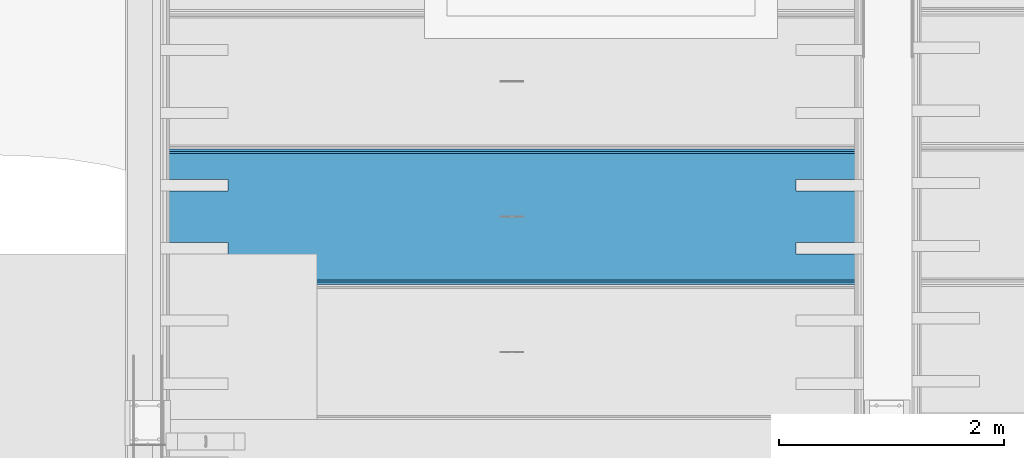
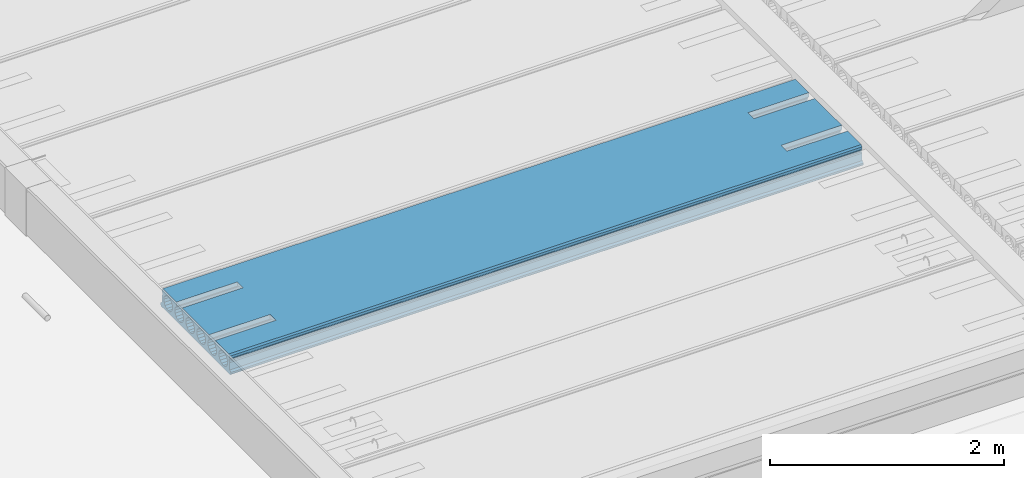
# One storey, part 75 of 230: 1 beam.
"""IFC4X3_ADD2 building model written with IfcOpenShell, lengths in millimetres."""

import ifcopenshell
import ifcopenshell.guid

model = None  # the IFC model being written
_history = None  # IfcOwnerHistory: only IFC2X3 demands one
_inside = {}  # id of a spatial element -> (the spatial element, [elements in it])
_under = {}  # id of a project, library or spatial element -> (it, [spatial elements below it])
_declared = {}  # id of a project -> (the project, [libraries it declares])
_typed = {}  # id of a type object -> (the type object, [elements of that type])
_made_of = {}  # id of a material, layer set ... -> (it, [elements and type objects made of it])


def new_model(schema):
    """Start an empty IFC model of exactly this schema.

    Asked for "IFC4X3", IfcOpenShell would pick the latest addendum, in which some entities
    have other attributes; the version numbers below select the first issue.
    IFC2X3 requires an IfcOwnerHistory on every rooted entity: one is made here for all.
    """
    global model, _history
    if schema == "IFC4X3":
        model = ifcopenshell.file(schema_version=(4, 3, 0, 0))
    else:
        model = ifcopenshell.file(schema=schema)
    _inside.clear()
    _under.clear()
    _declared.clear()
    _typed.clear()
    _made_of.clear()
    _history = None
    if model.schema == "IFC2X3":
        org = make("IfcOrganization", Name="unknown")
        user = make(
            "IfcPersonAndOrganization",
            ThePerson=make("IfcPerson", FamilyName="unknown"),
            TheOrganization=org,
        )
        app = make(
            "IfcApplication",
            ApplicationDeveloper=org,
            Version="unknown",
            ApplicationFullName="unknown",
            ApplicationIdentifier="unknown",
        )
        _history = make(
            "IfcOwnerHistory",
            OwningUser=user,
            OwningApplication=app,
            ChangeAction="ADDED",
            CreationDate=0,
        )
    return model


def make(cls, **values):
    """One entity of the class cls with the attributes given. An attribute that is None is left unset."""
    return model.create_entity(
        cls, **{name: value for name, value in values.items() if value is not None}
    )


def rooted(cls, **values):
    """An entity with a GlobalId (a new one), such as an element, a storey or a relation."""
    return make(cls, GlobalId=ifcopenshell.guid.new(), OwnerHistory=_history, **values)


def si_unit(unit_type, name, prefix=None):
    """IfcSIUnit, for example si_unit("LENGTHUNIT", "METRE", prefix="MILLI")."""
    return make("IfcSIUnit", UnitType=unit_type, Prefix=prefix, Name=name)


def assignment(units):
    """IfcUnitAssignment: the units of a project."""
    return None if units is None else make("IfcUnitAssignment", Units=units)


def point(xyz):
    """IfcCartesianPoint."""
    return None if xyz is None else make("IfcCartesianPoint", Coordinates=xyz)


def direction(xyz):
    """IfcDirection."""
    return None if xyz is None else make("IfcDirection", DirectionRatios=xyz)


def frame(location, z_axis=None, x_axis=None):
    """IfcAxis2Placement3D, a coordinate frame: its origin and axes. An axis left out is left unset."""
    return make(
        "IfcAxis2Placement3D",
        Location=point(location),
        Axis=direction(z_axis),
        RefDirection=direction(x_axis),
    )


def origin_with_axes():
    """The frame at (0, 0, 0) with the z axis (0, 0, 1) and the x axis (1, 0, 0) written out."""
    return frame((0.0, 0.0, 0.0), z_axis=(0.0, 0.0, 1.0), x_axis=(1.0, 0.0, 0.0))


def place(relative_to, where):
    """IfcLocalPlacement: puts the frame where relative to a parent placement (None: the world)."""
    return make(
        "IfcLocalPlacement", PlacementRelTo=relative_to, RelativePlacement=where
    )


def context(
    kind, dimensions, precision=None, world=None, true_north=None, identifier=None
):
    """IfcGeometricRepresentationContext, for example the 3D "Model" context."""
    return make(
        "IfcGeometricRepresentationContext",
        ContextIdentifier=identifier,
        ContextType=kind,
        CoordinateSpaceDimension=dimensions,
        Precision=precision,
        WorldCoordinateSystem=world,
        TrueNorth=true_north,
    )


def subcontext(parent, identifier, kind, view, scale=None):
    """IfcGeometricRepresentationSubContext, for example "Body" below "Model"."""
    return make(
        "IfcGeometricRepresentationSubContext",
        ContextIdentifier=identifier,
        ContextType=kind,
        ParentContext=parent,
        TargetScale=scale,
        TargetView=view,
    )


def project(units=None, contexts=None):
    """IfcProject with its units and contexts."""
    return rooted(
        "IfcProject",
        Name="project",
        RepresentationContexts=contexts,
        UnitsInContext=assignment(units),
    )


def spatial(cls, under=None, at=None, **own):
    """A site, building, storey or space (cls), placed at a placement, below another one or the project."""
    s = rooted(cls, ObjectPlacement=at, **own)
    if under is not None:
        _under.setdefault(under.id(), (under, []))[1].append(s)
    return s


def point_list(points):
    """IfcCartesianPointList2D or 3D."""
    cls = (
        "IfcCartesianPointList2D" if len(points[0]) == 2 else "IfcCartesianPointList3D"
    )
    return make(cls, CoordList=points)


def polygons(points, faces, closed=None, point_numbers=None):
    """IfcPolygonalFaceSet: a face is its outer loop, then its inner loops; points numbered from 1."""
    made = []
    for loops in faces:
        if len(loops) == 1:
            made.append(make("IfcIndexedPolygonalFace", CoordIndex=loops[0]))
        else:
            made.append(
                make(
                    "IfcIndexedPolygonalFaceWithVoids",
                    CoordIndex=loops[0],
                    InnerCoordIndices=loops[1:],
                )
            )
    return make(
        "IfcPolygonalFaceSet",
        Coordinates=point_list(points),
        Closed=closed,
        Faces=made,
        PnIndex=point_numbers,
    )


def shape(context_of_items, identifier, shape_type, items):
    """IfcShapeRepresentation: the items that make up one representation, for example the "Body"."""
    return make(
        "IfcShapeRepresentation",
        ContextOfItems=context_of_items,
        RepresentationIdentifier=identifier,
        RepresentationType=shape_type,
        Items=items,
    )


def made_of(thing, what):
    """Note that an element or type object is made of a material, layer set ...; save() writes the relation."""
    if what is not None:
        _made_of.setdefault(what.id(), (what, []))[1].append(thing)
    return thing


def element(
    cls,
    number,
    at=None,
    inside=None,
    cuts=None,
    type_object=None,
    material=None,
    context=None,
    identifier="Body",
    shape_type=None,
    held_by="IfcProductDefinitionShape",
    body=None,
    shapes=None,
    **own,
):
    """One element of the class cls, such as IfcWall. Its Tag is "e" and its number.

    at: its placement. inside: the storey or other place that contains it. cuts: it is an
    opening in that element (IfcRelVoidsElement). A single representation is given by context,
    identifier, shape_type and body (its items); several are given by shapes. held_by: the class
    of the entity that holds the representations. save() writes the other relations.
    """
    e = rooted(cls, Tag="e%d" % number, ObjectPlacement=at, **own)
    if body is not None:
        shapes = [shape(context, identifier, shape_type, body)]
    if shapes is not None:
        e.Representation = make(held_by, Representations=shapes)
    if inside is not None:
        _inside.setdefault(inside.id(), (inside, []))[1].append(e)
    if cuts is not None:
        rooted(
            "IfcRelVoidsElement", RelatingBuildingElement=cuts, RelatedOpeningElement=e
        )
    if type_object is not None:
        _typed.setdefault(type_object.id(), (type_object, []))[1].append(e)
    return made_of(e, material)


def aggregate(whole, parts):
    """IfcRelAggregates: a whole, such as a stair, and the parts it consists of."""
    return rooted("IfcRelAggregates", RelatingObject=whole, RelatedObjects=parts)


def save(model, path):
    """Write the relations noted so far, then the file.

    IfcRelAggregates (storeys below a building ...), IfcRelContainedInSpatialStructure (elements
    in a storey), IfcRelDefinesByType, IfcRelAssociatesMaterial and IfcRelDeclares: one each for
    every whole, place, type object, material and project.
    """
    for whole, parts in _under.values():
        aggregate(whole, parts)
    for where, things in _inside.values():
        rooted(
            "IfcRelContainedInSpatialStructure",
            RelatedElements=things,
            RelatingStructure=where,
        )
    for kind, things in _typed.values():
        rooted("IfcRelDefinesByType", RelatedObjects=things, RelatingType=kind)
    for what, things in _made_of.values():
        rooted("IfcRelAssociatesMaterial", RelatedObjects=things, RelatingMaterial=what)
    for by, libraries in _declared.values():
        rooted("IfcRelDeclares", RelatingContext=by, RelatedDefinitions=libraries)
    model.write(path)


model = new_model("IFC4X3_ADD2")

# Units and contexts
model_context = context("Model", 3, precision=1e-05, world=origin_with_axes(), true_north=direction((0.0, 1.0)))
body_context = subcontext(model_context, "Body", "Model", "MODEL_VIEW")
ifc_project = project(units=[si_unit("LENGTHUNIT", "METRE", prefix="MILLI"), si_unit("AREAUNIT", "SQUARE_METRE"), si_unit("VOLUMEUNIT", "CUBIC_METRE"), si_unit("PLANEANGLEUNIT", "RADIAN"), si_unit("TIMEUNIT", "SECOND"), si_unit("MASSUNIT", "GRAM")], contexts=[model_context])

# Site, building, storey
site_placement = place(None, origin_with_axes())
site = spatial("IfcSite", under=ifc_project, at=site_placement, Name="Site", CompositionType="ELEMENT")
building_placement = place(site_placement, origin_with_axes())
building = spatial("IfcBuilding", under=site, at=building_placement, Name="IFC Building Story")
storey_placement = place(building_placement, origin_with_axes())
storey = spatial("IfcBuildingStorey", under=building, at=storey_placement, Name="ETAGE 00 (0)", Elevation=0.0)

# Beam
beam_placement = place(storey_placement, origin_with_axes())
element("IfcBeam", 1, at=beam_placement, inside=storey, Name="HOLLOWCORE SLAB", ObjectType="EB_SP200", context=body_context, shape_type="Tessellation", body=[
    polygons([(33515.6922247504, -9970.999771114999, 3999.9999909), (33515.6922247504, -11148.999771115, 3999.9999909), (33515.6922247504, -11159.999771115, 4012.9999909), (33515.6922247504, -11159.999771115, 4029.9999909), (33515.6922247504, -11139.999771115, 4044.9999909), (33515.6922247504, -11138.54975890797, 4119.9999909), (33515.6922247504, -11131.01714963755, 4128.676139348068), (33515.6922247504, -11128.15984110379, 4139.805000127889), (33515.6922247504, -11130.58113470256, 4151.036789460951), (33515.6922247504, -11137.76979064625, 4159.9999909), (33515.6922247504, -11137.28847495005, 4185.002769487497), (33515.6922247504, -11121.999771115, 4199.9999909), (33515.6922247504, -10889.999771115, 4199.9999909), (33515.6922247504, -10889.999771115, 4155.806158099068), (33515.6922247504, -10894.6792263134, 4152.679446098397), (33515.6922247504, -10910.82879628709, 4128.509906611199), (33515.6922247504, -10916.499771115, 4099.9999909), (33515.6922247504, -10910.82879628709, 4071.490075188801), (33515.6922247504, -10894.6792263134, 4047.320535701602), (33515.6922247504, -10870.5096868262, 4031.170965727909), (33515.6922247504, -10841.999771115, 4025.4999909), (33515.6922247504, -10813.4898554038, 4031.170965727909), (33515.6922247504, -10789.3203159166, 4047.320535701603), (33515.6922247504, -10773.17074594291, 4071.490075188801), (33515.6922247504, -10767.499771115, 4099.9999909), (33515.6922247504, -10773.17074594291, 4128.509906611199), (33515.6922247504, -10789.3203159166, 4152.679446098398), (33515.6922247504, -10789.999771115, 4153.133443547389), (33515.6922247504, -10789.999771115, 4199.9999909), (33515.6922247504, -10329.999771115, 4199.9999909), (33515.6922247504, -10329.999771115, 4153.133443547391), (33515.6922247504, -10330.6792263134, 4152.679446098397), (33515.6922247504, -10346.82879628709, 4128.509906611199), (33515.6922247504, -10352.499771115, 4099.9999909), (33515.6922247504, -10346.82879628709, 4071.490075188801), (33515.6922247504, -10330.6792263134, 4047.320535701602), (33515.6922247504, -10306.5096868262, 4031.170965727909), (33515.6922247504, -10277.999771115, 4025.4999909), (33515.6922247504, -10249.4898554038, 4031.170965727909), (33515.6922247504, -10225.3203159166, 4047.320535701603), (33515.6922247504, -10209.17074594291, 4071.490075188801), (33515.6922247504, -10203.499771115, 4099.9999909), (33515.6922247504, -10209.17074594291, 4128.509906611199), (33515.6922247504, -10225.3203159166, 4152.679446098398), (33515.6922247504, -10229.999771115, 4155.806158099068), (33515.6922247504, -10229.999771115, 4199.9999909), (33515.6922247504, -9997.999771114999, 4199.9999909), (33515.6922247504, -9982.71106727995, 4185.002769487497), (33515.6922247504, -9982.229751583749, 4159.9999909), (33515.6922247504, -9989.418407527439, 4151.036789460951), (33515.6922247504, -9991.83970112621, 4139.805000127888), (33515.6922247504, -9988.982392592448, 4128.676139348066), (33515.6922247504, -9981.449783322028, 4119.9999909), (33515.6922247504, -9979.999771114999, 4044.9999909), (33515.6922247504, -9959.999771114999, 4029.9999909), (33515.6922247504, -9959.999771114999, 4012.9999909), (33515.6922247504, -10037.3203159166, 4152.679446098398), (33515.6922247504, -10061.4898554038, 4168.829016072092), (33515.6922247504, -10089.999771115, 4174.4999909), (33515.6922247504, -10118.5096868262, 4168.829016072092), (33515.6922247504, -10142.6792263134, 4152.679446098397), (33515.6922247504, -10158.82879628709, 4128.509906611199), (33515.6922247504, -10164.499771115, 4099.9999909), (33515.6922247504, -10158.82879628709, 4071.490075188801), (33515.6922247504, -10142.6792263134, 4047.320535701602), (33515.6922247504, -10118.5096868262, 4031.170965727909), (33515.6922247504, -10089.999771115, 4025.4999909), (33515.6922247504, -10061.4898554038, 4031.170965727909), (33515.6922247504, -10037.3203159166, 4047.320535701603), (33515.6922247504, -10021.17074594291, 4071.490075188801), (33515.6922247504, -10015.499771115, 4099.9999909), (33515.6922247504, -10021.17074594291, 4128.509906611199), (33515.6922247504, -10413.3203159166, 4152.679446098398), (33515.6922247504, -10437.4898554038, 4168.829016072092), (33515.6922247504, -10465.999771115, 4174.4999909), (33515.6922247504, -10494.5096868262, 4168.829016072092), (33515.6922247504, -10518.6792263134, 4152.679446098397), (33515.6922247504, -10534.82879628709, 4128.509906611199), (33515.6922247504, -10540.499771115, 4099.9999909), (33515.6922247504, -10534.82879628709, 4071.490075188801), (33515.6922247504, -10518.6792263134, 4047.320535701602), (33515.6922247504, -10494.5096868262, 4031.170965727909), (33515.6922247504, -10465.999771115, 4025.4999909), (33515.6922247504, -10437.4898554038, 4031.170965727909), (33515.6922247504, -10413.3203159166, 4047.320535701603), (33515.6922247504, -10397.17074594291, 4071.490075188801), (33515.6922247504, -10391.499771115, 4099.9999909), (33515.6922247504, -10397.17074594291, 4128.509906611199), (33515.6922247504, -10601.3203159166, 4152.679446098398), (33515.6922247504, -10625.4898554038, 4168.829016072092), (33515.6922247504, -10653.999771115, 4174.4999909), (33515.6922247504, -10682.5096868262, 4168.829016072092), (33515.6922247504, -10706.6792263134, 4152.679446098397), (33515.6922247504, -10722.82879628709, 4128.509906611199), (33515.6922247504, -10728.499771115, 4099.9999909), (33515.6922247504, -10722.82879628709, 4071.490075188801), (33515.6922247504, -10706.6792263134, 4047.320535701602), (33515.6922247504, -10682.5096868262, 4031.170965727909), (33515.6922247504, -10653.999771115, 4025.4999909), (33515.6922247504, -10625.4898554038, 4031.170965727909), (33515.6922247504, -10601.3203159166, 4047.320535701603), (33515.6922247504, -10585.17074594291, 4071.490075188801), (33515.6922247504, -10579.499771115, 4099.9999909), (33515.6922247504, -10585.17074594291, 4128.509906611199), (33515.6922247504, -10977.3203159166, 4152.679446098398), (33515.6922247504, -11001.4898554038, 4168.829016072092), (33515.6922247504, -11029.999771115, 4174.4999909), (33515.6922247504, -11058.5096868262, 4168.829016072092), (33515.6922247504, -11082.6792263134, 4152.679446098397), (33515.6922247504, -11098.82879628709, 4128.509906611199), (33515.6922247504, -11104.499771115, 4099.9999909), (33515.6922247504, -11098.82879628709, 4071.490075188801), (33515.6922247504, -11082.6792263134, 4047.320535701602), (33515.6922247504, -11058.5096868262, 4031.170965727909), (33515.6922247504, -11029.999771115, 4025.4999909), (33515.6922247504, -11001.4898554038, 4031.170965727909), (33515.6922247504, -10977.3203159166, 4047.320535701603), (33515.6922247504, -10961.17074594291, 4071.490075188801), (33515.6922247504, -10955.499771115, 4099.9999909), (33515.6922247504, -10961.17074594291, 4128.509906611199), (39750.6922247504, -9970.999771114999, 3999.9999909), (39750.6922247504, -9959.999771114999, 4012.9999909), (39750.6922247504, -9959.999771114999, 4029.9999909), (39750.6922247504, -9979.999771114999, 4044.9999909), (39750.6922247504, -9981.449783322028, 4119.9999909), (39750.6922247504, -9988.982392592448, 4128.676139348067), (39750.6922247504, -9991.83970112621, 4139.805000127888), (39750.6922247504, -9989.418407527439, 4151.036789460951), (39750.6922247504, -9982.229751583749, 4159.9999909), (39750.6922247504, -9982.71106727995, 4185.002769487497), (39750.6922247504, -9997.999771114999, 4199.9999909), (39750.6922247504, -10229.999771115, 4199.9999909), (39750.6922247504, -10229.999771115, 4155.806158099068), (39750.6922247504, -10225.3203159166, 4152.679446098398), (39750.6922247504, -10209.17074594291, 4128.509906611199), (39750.6922247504, -10203.499771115, 4099.9999909), (39750.6922247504, -10209.17074594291, 4071.490075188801), (39750.6922247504, -10225.3203159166, 4047.320535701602), (39750.6922247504, -10249.4898554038, 4031.170965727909), (39750.6922247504, -10277.999771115, 4025.4999909), (39750.6922247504, -10306.5096868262, 4031.170965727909), (39750.6922247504, -10330.6792263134, 4047.320535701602), (39750.6922247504, -10346.82879628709, 4071.490075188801), (39750.6922247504, -10352.499771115, 4099.9999909), (39750.6922247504, -10346.82879628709, 4128.509906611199), (39750.6922247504, -10330.6792263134, 4152.679446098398), (39750.6922247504, -10329.999771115, 4153.133443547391), (39750.6922247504, -10329.999771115, 4199.9999909), (39750.6922247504, -10789.999771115, 4199.9999909), (39750.6922247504, -10789.999771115, 4153.133443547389), (39750.6922247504, -10789.3203159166, 4152.679446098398), (39750.6922247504, -10773.17074594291, 4128.509906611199), (39750.6922247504, -10767.499771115, 4099.9999909), (39750.6922247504, -10773.17074594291, 4071.490075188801), (39750.6922247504, -10789.3203159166, 4047.320535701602), (39750.6922247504, -10813.4898554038, 4031.170965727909), (39750.6922247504, -10841.999771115, 4025.4999909), (39750.6922247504, -10870.5096868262, 4031.170965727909), (39750.6922247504, -10894.6792263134, 4047.320535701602), (39750.6922247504, -10910.82879628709, 4071.490075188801), (39750.6922247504, -10916.499771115, 4099.9999909), (39750.6922247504, -10910.82879628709, 4128.509906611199), (39750.6922247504, -10894.6792263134, 4152.679446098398), (39750.6922247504, -10889.999771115, 4155.806158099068), (39750.6922247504, -10889.999771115, 4199.9999909), (39750.6922247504, -11121.999771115, 4199.9999909), (39750.6922247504, -11137.28847495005, 4185.002769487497), (39750.6922247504, -11137.76979064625, 4159.9999909), (39750.6922247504, -11130.58113470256, 4151.036789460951), (39750.6922247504, -11128.15984110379, 4139.805000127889), (39750.6922247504, -11131.01714963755, 4128.676139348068), (39750.6922247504, -11138.54975890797, 4119.9999909), (39750.6922247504, -11139.999771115, 4044.9999909), (39750.6922247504, -11159.999771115, 4029.9999909), (39750.6922247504, -11159.999771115, 4012.9999909), (39750.6922247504, -11148.999771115, 3999.9999909), (39750.6922247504, -10037.3203159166, 4152.679446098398), (39750.6922247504, -10021.17074594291, 4128.509906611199), (39750.6922247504, -10015.499771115, 4099.9999909), (39750.6922247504, -10021.17074594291, 4071.490075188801), (39750.6922247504, -10037.3203159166, 4047.320535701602), (39750.6922247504, -10061.4898554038, 4031.170965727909), (39750.6922247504, -10089.999771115, 4025.4999909), (39750.6922247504, -10118.5096868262, 4031.170965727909), (39750.6922247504, -10142.6792263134, 4047.320535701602), (39750.6922247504, -10158.82879628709, 4071.490075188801), (39750.6922247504, -10164.499771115, 4099.9999909), (39750.6922247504, -10158.82879628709, 4128.509906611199), (39750.6922247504, -10142.6792263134, 4152.679446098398), (39750.6922247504, -10118.5096868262, 4168.829016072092), (39750.6922247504, -10089.999771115, 4174.4999909), (39750.6922247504, -10061.4898554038, 4168.829016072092), (39750.6922247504, -10413.3203159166, 4152.679446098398), (39750.6922247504, -10397.17074594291, 4128.509906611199), (39750.6922247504, -10391.499771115, 4099.9999909), (39750.6922247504, -10397.17074594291, 4071.490075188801), (39750.6922247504, -10413.3203159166, 4047.320535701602), (39750.6922247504, -10437.4898554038, 4031.170965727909), (39750.6922247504, -10465.999771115, 4025.4999909), (39750.6922247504, -10494.5096868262, 4031.170965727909), (39750.6922247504, -10518.6792263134, 4047.320535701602), (39750.6922247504, -10534.82879628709, 4071.490075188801), (39750.6922247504, -10540.499771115, 4099.9999909), (39750.6922247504, -10534.82879628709, 4128.509906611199), (39750.6922247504, -10518.6792263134, 4152.679446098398), (39750.6922247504, -10494.5096868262, 4168.829016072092), (39750.6922247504, -10465.999771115, 4174.4999909), (39750.6922247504, -10437.4898554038, 4168.829016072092), (39750.6922247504, -10601.3203159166, 4152.679446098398), (39750.6922247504, -10585.17074594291, 4128.509906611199), (39750.6922247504, -10579.499771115, 4099.9999909), (39750.6922247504, -10585.17074594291, 4071.490075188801), (39750.6922247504, -10601.3203159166, 4047.320535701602), (39750.6922247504, -10625.4898554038, 4031.170965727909), (39750.6922247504, -10653.999771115, 4025.4999909), (39750.6922247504, -10682.5096868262, 4031.170965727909), (39750.6922247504, -10706.6792263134, 4047.320535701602), (39750.6922247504, -10722.82879628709, 4071.490075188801), (39750.6922247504, -10728.499771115, 4099.9999909), (39750.6922247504, -10722.82879628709, 4128.509906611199), (39750.6922247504, -10706.6792263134, 4152.679446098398), (39750.6922247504, -10682.5096868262, 4168.829016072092), (39750.6922247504, -10653.999771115, 4174.4999909), (39750.6922247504, -10625.4898554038, 4168.829016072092), (39750.6922247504, -10977.3203159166, 4152.679446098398), (39750.6922247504, -10961.17074594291, 4128.509906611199), (39750.6922247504, -10955.499771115, 4099.9999909), (39750.6922247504, -10961.17074594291, 4071.490075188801), (39750.6922247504, -10977.3203159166, 4047.320535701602), (39750.6922247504, -11001.4898554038, 4031.170965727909), (39750.6922247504, -11029.999771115, 4025.4999909), (39750.6922247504, -11058.5096868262, 4031.170965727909), (39750.6922247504, -11082.6792263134, 4047.320535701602), (39750.6922247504, -11098.82879628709, 4071.490075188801), (39750.6922247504, -11104.499771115, 4099.9999909), (39750.6922247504, -11098.82879628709, 4128.509906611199), (39750.6922247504, -11082.6792263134, 4152.679446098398), (39750.6922247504, -11058.5096868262, 4168.829016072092), (39750.6922247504, -11029.999771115, 4174.4999909), (39750.6922247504, -11001.4898554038, 4168.829016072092), (34115.6922247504, -10229.999771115, 4199.9999909), (34115.6922247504, -10329.999771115, 4199.9999909), (34115.6922247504, -10789.999771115, 4199.9999909), (34115.6922247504, -10889.999771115, 4199.9999909), (39150.69222475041, -10889.999771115, 4199.9999909), (39150.69222475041, -10789.999771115, 4199.9999909), (39150.69222475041, -10329.999771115, 4199.9999909), (39150.69222475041, -10229.999771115, 4199.9999909), (39150.69222475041, -10229.999771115, 4155.806158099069), (39150.69222475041, -10249.4898554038, 4168.829016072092), (34115.6922247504, -10249.4898554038, 4168.829016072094), (34115.6922247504, -10229.999771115, 4155.806158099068), (39150.69222475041, -10277.999771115, 4174.4999909), (34115.6922247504, -10277.999771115, 4174.4999909), (39150.69222475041, -10306.5096868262, 4168.829016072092), (34115.6922247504, -10306.5096868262, 4168.82901607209), (34115.6922247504, -10329.999771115, 4153.133443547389), (39150.69222475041, -10329.999771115, 4153.133443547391), (39150.69222475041, -10789.999771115, 4153.13344354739), (39150.69222475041, -10813.4898554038, 4168.829016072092), (34115.6922247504, -10813.4898554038, 4168.829016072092), (34115.6922247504, -10789.999771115, 4153.133443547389), (39150.69222475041, -10841.999771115, 4174.4999909), (34115.6922247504, -10841.999771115, 4174.4999909), (39150.69222475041, -10870.5096868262, 4168.829016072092), (34115.6922247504, -10870.5096868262, 4168.829016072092), (34115.6922247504, -10889.999771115, 4155.806158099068), (39150.69222475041, -10889.999771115, 4155.806158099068), (34115.6922247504, -10329.999771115, 4199.999996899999), (34115.6922247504, -10229.999771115, 4199.999996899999), (39150.69222475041, -10229.999771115, 4199.999996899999), (39150.69222475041, -10329.999771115, 4199.999996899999), (39150.69222475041, -10789.999771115, 4199.999996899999), (39150.69222475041, -10889.999771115, 4199.999996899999), (34115.6922247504, -10889.999771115, 4199.999996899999), (34115.6922247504, -10789.999771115, 4199.999996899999)], [[[27, 28, 29]], [[92, 93, 26]], [[92, 26, 27]], [[92, 27, 29]], [[29, 91, 92]], [[91, 29, 30]], [[30, 90, 91]], [[30, 89, 90]], [[94, 95, 25]], [[94, 25, 26]], [[26, 93, 94]], [[96, 97, 24]], [[24, 25, 95]], [[24, 95, 96]], [[97, 23, 24]], [[76, 77, 104]], [[76, 104, 89]], [[89, 75, 76]], [[75, 89, 30]], [[30, 74, 75]], [[30, 73, 74]], [[78, 79, 103]], [[78, 103, 104]], [[104, 77, 78]], [[80, 81, 102]], [[102, 103, 79]], [[102, 79, 80]], [[81, 101, 102]], [[88, 73, 30]], [[88, 30, 31]], [[33, 34, 87]], [[33, 87, 88]], [[88, 32, 33]], [[88, 31, 32]], [[35, 36, 86]], [[86, 87, 34]], [[86, 34, 35]], [[36, 85, 86]], [[44, 45, 46]], [[60, 61, 43]], [[60, 43, 44]], [[60, 44, 46]], [[46, 59, 60]], [[46, 47, 59]], [[47, 58, 59]], [[47, 57, 58]], [[62, 63, 42]], [[62, 42, 43]], [[43, 61, 62]], [[64, 65, 41]], [[41, 42, 63]], [[41, 63, 64]], [[50, 51, 72]], [[50, 72, 57]], [[57, 47, 48]], [[57, 48, 49]], [[57, 49, 50]], [[52, 53, 71]], [[52, 71, 72]], [[72, 51, 52]], [[53, 54, 70]], [[53, 70, 71]], [[54, 55, 56]], [[54, 56, 1]], [[1, 69, 70]], [[1, 70, 54]], [[1, 68, 69]], [[1, 67, 68]], [[1, 66, 67]], [[1, 40, 66]], [[40, 41, 65]], [[40, 65, 66]], [[1, 39, 40]], [[1, 38, 39]], [[1, 84, 38]], [[84, 37, 38]], [[84, 85, 36]], [[84, 36, 37]], [[1, 83, 84]], [[1, 100, 83]], [[100, 82, 83]], [[100, 101, 81]], [[100, 81, 82]], [[1, 99, 100]], [[1, 22, 99]], [[22, 98, 99]], [[22, 23, 97]], [[22, 97, 98]], [[1, 21, 22]], [[1, 2, 21]], [[2, 20, 21]], [[2, 19, 20]], [[9, 10, 11]], [[9, 11, 12]], [[109, 110, 8]], [[109, 8, 9]], [[9, 12, 108]], [[9, 108, 109]], [[12, 107, 108]], [[107, 12, 13]], [[13, 106, 107]], [[13, 105, 106]], [[110, 7, 8]], [[112, 113, 5]], [[5, 6, 111]], [[5, 111, 112]], [[6, 7, 110]], [[6, 110, 111]], [[116, 117, 18]], [[116, 18, 19]], [[19, 115, 116]], [[19, 2, 115]], [[2, 114, 115]], [[2, 5, 113]], [[2, 113, 114]], [[2, 3, 4]], [[2, 4, 5]], [[118, 119, 17]], [[118, 17, 18]], [[18, 117, 118]], [[120, 105, 16]], [[16, 17, 119]], [[16, 119, 120]], [[105, 13, 15]], [[105, 15, 16]], [[13, 14, 15]], [[173, 174, 175]], [[173, 175, 176]], [[128, 129, 130]], [[128, 130, 131]], [[128, 131, 177]], [[177, 178, 127]], [[177, 127, 128]], [[178, 126, 127]], [[180, 181, 124]], [[124, 125, 179]], [[124, 179, 180]], [[125, 126, 178]], [[125, 178, 179]], [[192, 177, 131]], [[131, 191, 192]], [[191, 131, 132]], [[132, 190, 191]], [[132, 189, 190]], [[132, 133, 188]], [[132, 188, 189]], [[135, 136, 187]], [[135, 187, 188]], [[188, 134, 135]], [[188, 133, 134]], [[137, 138, 186]], [[186, 187, 136]], [[186, 136, 137]], [[138, 139, 185]], [[138, 185, 186]], [[139, 184, 185]], [[146, 147, 148]], [[148, 193, 145]], [[148, 145, 146]], [[194, 195, 144]], [[194, 144, 145]], [[145, 193, 194]], [[196, 197, 143]], [[143, 144, 195]], [[143, 195, 196]], [[197, 142, 143]], [[208, 193, 148]], [[148, 207, 208]], [[148, 209, 207]], [[209, 206, 207]], [[209, 205, 206]], [[209, 204, 205]], [[210, 211, 203]], [[210, 203, 204]], [[204, 209, 210]], [[212, 213, 202]], [[202, 203, 211]], [[202, 211, 212]], [[213, 201, 202]], [[224, 209, 148]], [[148, 223, 224]], [[148, 149, 223]], [[149, 222, 223]], [[149, 221, 222]], [[149, 150, 220]], [[149, 220, 221]], [[152, 153, 219]], [[152, 219, 220]], [[220, 151, 152]], [[220, 150, 151]], [[154, 155, 218]], [[218, 219, 153]], [[218, 153, 154]], [[155, 217, 218]], [[163, 164, 165]], [[165, 225, 162]], [[165, 162, 163]], [[226, 227, 161]], [[226, 161, 162]], [[162, 225, 226]], [[228, 229, 160]], [[160, 161, 227]], [[160, 227, 228]], [[235, 236, 171]], [[235, 171, 172]], [[172, 173, 234]], [[172, 234, 235]], [[173, 176, 233]], [[173, 233, 234]], [[176, 232, 233]], [[176, 231, 232]], [[176, 230, 231]], [[176, 159, 230]], [[159, 160, 229]], [[159, 229, 230]], [[176, 158, 159]], [[176, 157, 158]], [[176, 216, 157]], [[216, 156, 157]], [[216, 217, 155]], [[216, 155, 156]], [[176, 215, 216]], [[176, 200, 215]], [[200, 214, 215]], [[200, 201, 213]], [[200, 213, 214]], [[176, 199, 200]], [[176, 141, 199]], [[141, 198, 199]], [[141, 142, 197]], [[141, 197, 198]], [[176, 140, 141]], [[176, 183, 140]], [[183, 184, 139]], [[183, 139, 140]], [[176, 121, 183]], [[121, 182, 183]], [[121, 124, 181]], [[121, 181, 182]], [[121, 122, 123]], [[121, 123, 124]], [[236, 170, 171]], [[240, 225, 165]], [[165, 239, 240]], [[165, 166, 239]], [[166, 238, 239]], [[166, 169, 237]], [[166, 237, 238]], [[169, 170, 236]], [[169, 236, 237]], [[166, 167, 168]], [[166, 168, 169]], [[2, 1, 121, 176]], [[3, 2, 176, 175]], [[4, 3, 175, 174]], [[5, 4, 174, 173]], [[6, 5, 173, 172]], [[7, 6, 172, 171]], [[8, 7, 171, 170]], [[9, 8, 170, 169]], [[10, 9, 169, 168]], [[11, 10, 168, 167]], [[12, 11, 167, 166]], [[242, 30, 29]], [[242, 29, 243]], [[244, 13, 12]], [[244, 12, 166]], [[166, 243, 244]], [[242, 243, 166]], [[166, 241, 242]], [[246, 149, 148]], [[246, 148, 247]], [[248, 132, 131]], [[248, 131, 47]], [[47, 247, 248]], [[246, 247, 47]], [[47, 245, 246]], [[47, 241, 166]], [[47, 166, 245]], [[166, 165, 245]], [[47, 46, 241]], [[48, 47, 131, 130]], [[49, 48, 130, 129]], [[50, 49, 129, 128]], [[51, 50, 128, 127]], [[52, 51, 127, 126]], [[53, 52, 126, 125]], [[54, 53, 125, 124]], [[55, 54, 124, 123]], [[56, 55, 123, 122]], [[1, 56, 122, 121]], [[58, 57, 177, 192]], [[59, 58, 192, 191]], [[60, 59, 191, 190]], [[61, 60, 190, 189]], [[62, 61, 189, 188]], [[63, 62, 188, 187]], [[64, 63, 187, 186]], [[65, 64, 186, 185]], [[66, 65, 185, 184]], [[67, 66, 184, 183]], [[68, 67, 183, 182]], [[69, 68, 182, 181]], [[70, 69, 181, 180]], [[71, 70, 180, 179]], [[72, 71, 179, 178]], [[57, 72, 178, 177]], [[252, 45, 44]], [[252, 44, 249]], [[249, 250, 251]], [[249, 251, 252]], [[44, 134, 249]], [[134, 133, 249]], [[251, 250, 253, 254]], [[254, 253, 255, 256]], [[258, 147, 146]], [[258, 146, 257]], [[257, 256, 255]], [[257, 255, 258]], [[146, 32, 257]], [[32, 31, 257]], [[33, 32, 146, 145]], [[34, 33, 145, 144]], [[35, 34, 144, 143]], [[36, 35, 143, 142]], [[37, 36, 142, 141]], [[38, 37, 141, 140]], [[39, 38, 140, 139]], [[40, 39, 139, 138]], [[41, 40, 138, 137]], [[42, 41, 137, 136]], [[43, 42, 136, 135]], [[44, 43, 135, 134]], [[74, 73, 193, 208]], [[75, 74, 208, 207]], [[76, 75, 207, 206]], [[77, 76, 206, 205]], [[78, 77, 205, 204]], [[79, 78, 204, 203]], [[80, 79, 203, 202]], [[81, 80, 202, 201]], [[82, 81, 201, 200]], [[83, 82, 200, 199]], [[84, 83, 199, 198]], [[85, 84, 198, 197]], [[86, 85, 197, 196]], [[87, 86, 196, 195]], [[88, 87, 195, 194]], [[73, 88, 194, 193]], [[90, 89, 209, 224]], [[91, 90, 224, 223]], [[92, 91, 223, 222]], [[93, 92, 222, 221]], [[94, 93, 221, 220]], [[95, 94, 220, 219]], [[96, 95, 219, 218]], [[97, 96, 218, 217]], [[98, 97, 217, 216]], [[99, 98, 216, 215]], [[100, 99, 215, 214]], [[101, 100, 214, 213]], [[102, 101, 213, 212]], [[103, 102, 212, 211]], [[104, 103, 211, 210]], [[89, 104, 210, 209]], [[262, 28, 27]], [[262, 27, 259]], [[259, 260, 261]], [[259, 261, 262]], [[27, 151, 259]], [[151, 150, 259]], [[260, 263, 264, 261]], [[263, 265, 266, 264]], [[268, 164, 163]], [[268, 163, 267]], [[267, 266, 265]], [[267, 265, 268]], [[163, 15, 267]], [[15, 14, 267]], [[16, 15, 163, 162]], [[17, 16, 162, 161]], [[18, 17, 161, 160]], [[19, 18, 160, 159]], [[20, 19, 159, 158]], [[21, 20, 158, 157]], [[22, 21, 157, 156]], [[23, 22, 156, 155]], [[24, 23, 155, 154]], [[25, 24, 154, 153]], [[26, 25, 153, 152]], [[27, 26, 152, 151]], [[106, 105, 225, 240]], [[107, 106, 240, 239]], [[108, 107, 239, 238]], [[109, 108, 238, 237]], [[110, 109, 237, 236]], [[111, 110, 236, 235]], [[112, 111, 235, 234]], [[113, 112, 234, 233]], [[114, 113, 233, 232]], [[115, 114, 232, 231]], [[116, 115, 231, 230]], [[117, 116, 230, 229]], [[118, 117, 229, 228]], [[119, 118, 228, 227]], [[120, 119, 227, 226]], [[105, 120, 226, 225]], [[46, 45, 252, 241]], [[31, 30, 269, 257]], [[256, 257, 242]], [[242, 270, 254]], [[242, 254, 256]], [[270, 251, 254]], [[270, 252, 251]], [[148, 147, 258, 247]], [[133, 132, 271, 249]], [[250, 249, 248]], [[248, 253, 250]], [[248, 272, 255]], [[248, 255, 253]], [[272, 258, 255]], [[165, 164, 268, 245]], [[150, 149, 273, 259]], [[260, 259, 246]], [[246, 274, 263]], [[246, 263, 260]], [[274, 265, 263]], [[274, 268, 265]], [[262, 243, 29, 28]], [[275, 267, 14, 13]], [[266, 267, 244]], [[244, 264, 266]], [[244, 276, 261]], [[244, 261, 264]], [[276, 262, 261]]]),
])

save(model, "model.ifc")
